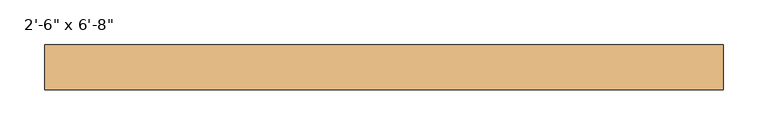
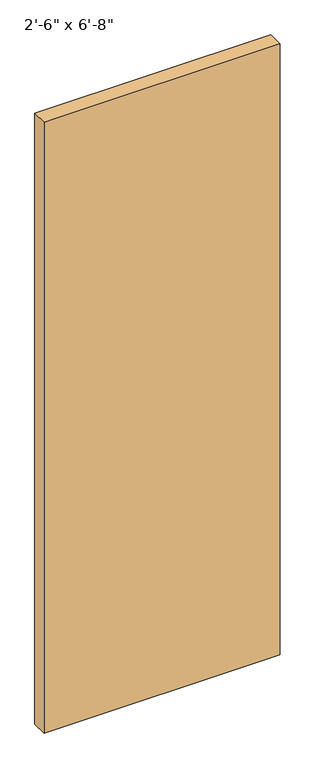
"""IFC4 building model written with IfcOpenShell, lengths in millimetres: door geometry."""

from ifc_helpers import new_model, si_unit, origin, origin_with_axes, place, context, project, spatial, polyline, outline, extrude, source, transform, mapped, element, save


def door_cadf0f2e(model_context):
    return source(origin(), model_context, "Body", "SweptSolid", [
        extrude(outline(polyline([(381.0, 31.55), (-381.0, 31.55), (-381.0, 82.55), (381.0, 82.55), (381.0, 31.55)])), origin_with_axes(), (0.0, 0.0, 1.0), 2082.8),
    ])


if __name__ == "__main__":
    model = new_model("IFC4")
    model_context = context("Model", 3, world=origin())
    ifc_project = project(units=[si_unit("LENGTHUNIT", "METRE", prefix="MILLI")], contexts=[model_context])
    site = spatial("IfcSite", under=ifc_project)
    building = spatial("IfcBuilding", under=site)
    placement = place(None, origin())
    door_shape = door_cadf0f2e(model_context)
    element("IfcDoor", 1, ObjectType="Planitar - Single Door_Flush Panel : 2'-6\" x 6'-8\"", at=placement, inside=building, context=model_context, shape_type="MappedRepresentation", body=[
        mapped(door_shape, transform((0.0, 0.0, 0.0), x_axis=(1.0, 0.0, 0.0), y_axis=(0.0, 1.0, 0.0), z_axis=(0.0, 0.0, 1.0))),
    ])
    save(model, "model.ifc")
